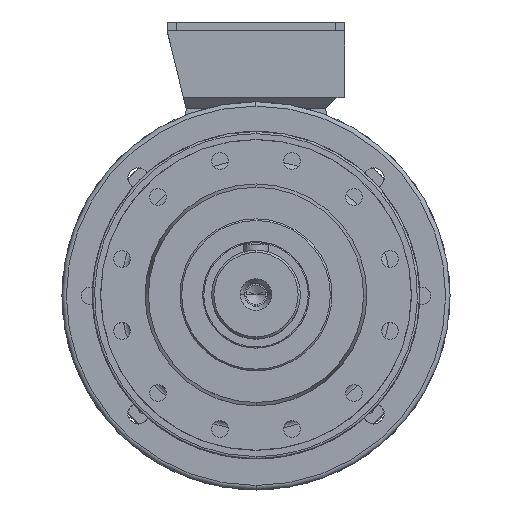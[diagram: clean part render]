
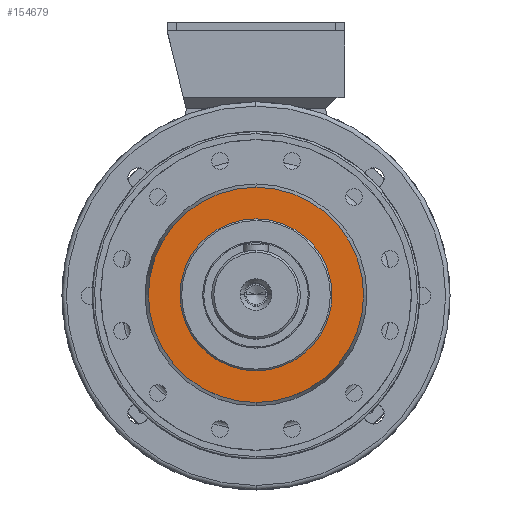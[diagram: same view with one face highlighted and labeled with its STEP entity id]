
A CAD part, top view. The second image highlights one B-rep face of the part: STEP entity #154679.
In plain terms, the highlighted planar face has unit normal (0, 0, 1).
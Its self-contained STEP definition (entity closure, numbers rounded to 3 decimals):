
#16913 = EDGE_LOOP ( 'NONE', ( #94096, #94099 ) ) ;
#16947 = EDGE_LOOP ( 'NONE', ( #94126, #94123 ) ) ;
#34231 = EDGE_CURVE ( 'NONE', #77344, #77288, #42535, .T. ) ;
#34257 = EDGE_CURVE ( 'NONE', #77199, #77187, #42429, .T. ) ;
#34276 = EDGE_CURVE ( 'NONE', #77187, #77199, #42597, .T. ) ;
#34331 = EDGE_CURVE ( 'NONE', #77288, #77344, #42803, .T. ) ;
#42429 = CIRCLE ( 'NONE', #50136, 97. ) ;
#42535 = CIRCLE ( 'NONE', #50275, 68.5 ) ;
#42597 = CIRCLE ( 'NONE', #50162, 97. ) ;
#42803 = CIRCLE ( 'NONE', #50299, 68.5 ) ;
#50136 = AXIS2_PLACEMENT_3D ( 'NONE', #123707, #123714, #123738 ) ;
#50162 = AXIS2_PLACEMENT_3D ( 'NONE', #123958, #123901, #123968 ) ;
#50275 = AXIS2_PLACEMENT_3D ( 'NONE', #123643, #123634, #123635 ) ;
#50299 = AXIS2_PLACEMENT_3D ( 'NONE', #124137, #124116, #124140 ) ;
#68879 = DIRECTION ( 'NONE',  ( 0., 0., -1. ) ) ;
#68894 = DIRECTION ( 'NONE',  ( 0., 1., 0. ) ) ;
#68897 = PLANE ( 'NONE',  #89894 ) ;
#69046 = CARTESIAN_POINT ( 'NONE',  ( 0., 97., 147. ) ) ;
#77187 = VERTEX_POINT ( 'NONE', #79250 ) ;
#77199 = VERTEX_POINT ( 'NONE', #79265 ) ;
#77288 = VERTEX_POINT ( 'NONE', #79347 ) ;
#77344 = VERTEX_POINT ( 'NONE', #79306 ) ;
#79250 = CARTESIAN_POINT ( 'NONE',  ( 0., -97., 147. ) ) ;
#79265 = CARTESIAN_POINT ( 'NONE',  ( 0., 97., 147. ) ) ;
#79306 = CARTESIAN_POINT ( 'NONE',  ( 68.5, 0., 147. ) ) ;
#79347 = CARTESIAN_POINT ( 'NONE',  ( -68.5, 0., 147. ) ) ;
#89894 = AXIS2_PLACEMENT_3D ( 'NONE', #69046, #68879, #68894 ) ;
#94096 = ORIENTED_EDGE ( 'NONE', *, *, #34257, .F. ) ;
#94099 = ORIENTED_EDGE ( 'NONE', *, *, #34276, .F. ) ;
#94123 = ORIENTED_EDGE ( 'NONE', *, *, #34231, .F. ) ;
#94126 = ORIENTED_EDGE ( 'NONE', *, *, #34331, .F. ) ;
#108581 = FACE_BOUND ( 'NONE', #16947, .T. ) ;
#108612 = FACE_OUTER_BOUND ( 'NONE', #16913, .T. ) ;
#123634 = DIRECTION ( 'NONE',  ( 0., 0., 1. ) ) ;
#123635 = DIRECTION ( 'NONE',  ( -1., 0., 0. ) ) ;
#123643 = CARTESIAN_POINT ( 'NONE',  ( 0., 0., 147. ) ) ;
#123707 = CARTESIAN_POINT ( 'NONE',  ( 0., 0., 147. ) ) ;
#123714 = DIRECTION ( 'NONE',  ( 0., 0., -1. ) ) ;
#123738 = DIRECTION ( 'NONE',  ( 0., 1., 0. ) ) ;
#123901 = DIRECTION ( 'NONE',  ( 0., 0., -1. ) ) ;
#123958 = CARTESIAN_POINT ( 'NONE',  ( 0., 0., 147. ) ) ;
#123968 = DIRECTION ( 'NONE',  ( 0., 1., 0. ) ) ;
#124116 = DIRECTION ( 'NONE',  ( 0., 0., 1. ) ) ;
#124137 = CARTESIAN_POINT ( 'NONE',  ( 0., 0., 147. ) ) ;
#124140 = DIRECTION ( 'NONE',  ( -1., 0., 0. ) ) ;
#154679 = ADVANCED_FACE ( 'NONE', ( #108581, #108612 ), #68897, .F. ) ;
